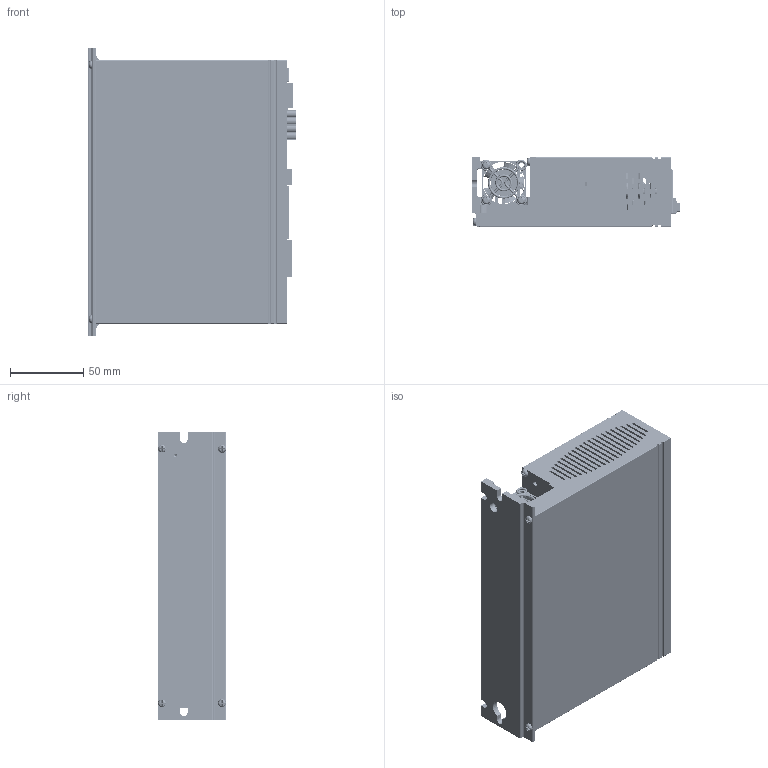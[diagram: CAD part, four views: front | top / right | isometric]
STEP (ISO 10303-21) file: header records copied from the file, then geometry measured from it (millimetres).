
FILE_DESCRIPTION((''),'2;1');
FILE_NAME('SW5_ISD00_ASM','2020-07-28T10:39:06',('Matteo Maccalli'),(''),'CREO PARAMETRIC BY PTC INC, 2019344','CREO PARAMETRIC BY PTC INC, 2019344','');
FILE_SCHEMA(('AUTOMOTIVE_DESIGN { 1 0 10303 214 1 1 1 1 }'));
Products named in the file (230): ISD00_DISSIPATORE-03; AD_00883-03_ISD00; SCATOLA_SW5_D-04; ACC_2E9X9E5; FAN-HOUSE-30X30X10-PROMOCO_FAN-; FAN-30X30X10-PROMOCO_FAN-KDE050; GRIGLIA_30X30; ACC_2E9X19; ISD00_EARTH_FIX-01; AD_01053_ISD00_BLK; BOARD-185; CPP_4X13X9_P10_1_2; CY204_1_ASM; CPP_4X13X9_P10; CY203_1_ASM; CY202_1_ASM; 79202-X02LF; JMP500_ASM; CE_35X30_P10; CE202_ASM; BOARD-38953; USER_LIBRARY-TSSOP-16-1_1_2; IC402_ASM; USER_LIBRARY-ARRAY-1206-4-58410; USER_LIBRARY-ARRAY-1206-4-68119; USER_LIBRARY-ARRAY-1206-4-70352; USER_LIBRARY-ARRAY-1206-4-76785; USER_LIBRARY-ARRAY-1206-4-58388_ASM; RN403_ASM; RN402_ASM; RN401_ASM; RN105_ASM; RN104_ASM; USER_LIBRARY-RES0603-1_1_2; R405_ASM; USER_LIBRARY-TSSOP-16-1; IC401_ASM; IC100_ASM; SW3DPS-0603_SMD_CAPACITOR_1_2; C401_ASM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
Assembly tree (277 placements, depth 8):
  SW5_ISD00_ASM
    ISD00_DISSIPATORE-03
    AD_00883-03_ISD00
    SCATOLA_SW5_D-04
    ACC_2E9X9E5  x4
    FAN-HOUSE-30X30X10-PROMOCO_FAN-
    FAN-30X30X10-PROMOCO_FAN-KDE050
    GRIGLIA_30X30
    ACC_2E9X19  x3
    ISD00_EARTH_FIX-01
    AD_01053_ISD00_BLK
    ASM0001_ASM
      PCB_ASM
        BOARD-185
        CY204_1_ASM
          CPP_4X13X9_P10_1_2
        CY203_1_ASM
          CPP_4X13X9_P10
        CY202_1_ASM
          CPP_4X13X9_P10
        JMP500_ASM
          79202-X02LF  x2
        CE202_ASM
          CE_35X30_P10
        VIS400-38854_ASM
          ISD00VIS-02_ASM
            BOARD-38953
            IC402_ASM
              USER_LIBRARY-TSSOP-16-1_1_2
            RN403_ASM
              USER_LIBRARY-ARRAY-1206-4-58388_ASM
                USER_LIBRARY-ARRAY-1206-4-58410
                USER_LIBRARY-ARRAY-1206-4-68119
                USER_LIBRARY-ARRAY-1206-4-70352
                USER_LIBRARY-ARRAY-1206-4-76785
            RN402_ASM
              USER_LIBRARY-ARRAY-1206-4-58388_ASM
                USER_LIBRARY-ARRAY-1206-4-58410
                USER_LIBRARY-ARRAY-1206-4-68119
                USER_LIBRARY-ARRAY-1206-4-70352
                USER_LIBRARY-ARRAY-1206-4-76785
            RN401_ASM
              USER_LIBRARY-ARRAY-1206-4-58388_ASM
                USER_LIBRARY-ARRAY-1206-4-58410
                USER_LIBRARY-ARRAY-1206-4-68119
                USER_LIBRARY-ARRAY-1206-4-70352
                USER_LIBRARY-ARRAY-1206-4-76785
            RN105_ASM
              USER_LIBRARY-ARRAY-1206-4-58388_ASM
                USER_LIBRARY-ARRAY-1206-4-58410
                USER_LIBRARY-ARRAY-1206-4-68119
                USER_LIBRARY-ARRAY-1206-4-70352
                USER_LIBRARY-ARRAY-1206-4-76785
            RN104_ASM
              USER_LIBRARY-ARRAY-1206-4-58388_ASM
                USER_LIBRARY-ARRAY-1206-4-58410
                USER_LIBRARY-ARRAY-1206-4-68119
                USER_LIBRARY-ARRAY-1206-4-70352
                USER_LIBRARY-ARRAY-1206-4-76785
            R405_ASM
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Bounding box: 142.78 x 47 x 196.6 mm (x, y, z)
Volume: 464227.4 mm3; surface area: 358507.6 mm2
Topology: 182 solids, 189 shells, 16967 faces, 45918 edges, 29678 vertices
Faces by surface type: plane 11848, cylinder 3409, extrusion 865, cone 322, bspline 212, sphere 202, torus 109
Entity records: 582583 total; most frequent: CARTESIAN_POINT 103648, ORIENTED_EDGE 71218, DIRECTION 64841, PRESENTATION_STYLE_ASSIGNMENT 37225, EDGE_CURVE 35623, STYLED_ITEM 31612, CURVE_STYLE 31059, VECTOR 27473
